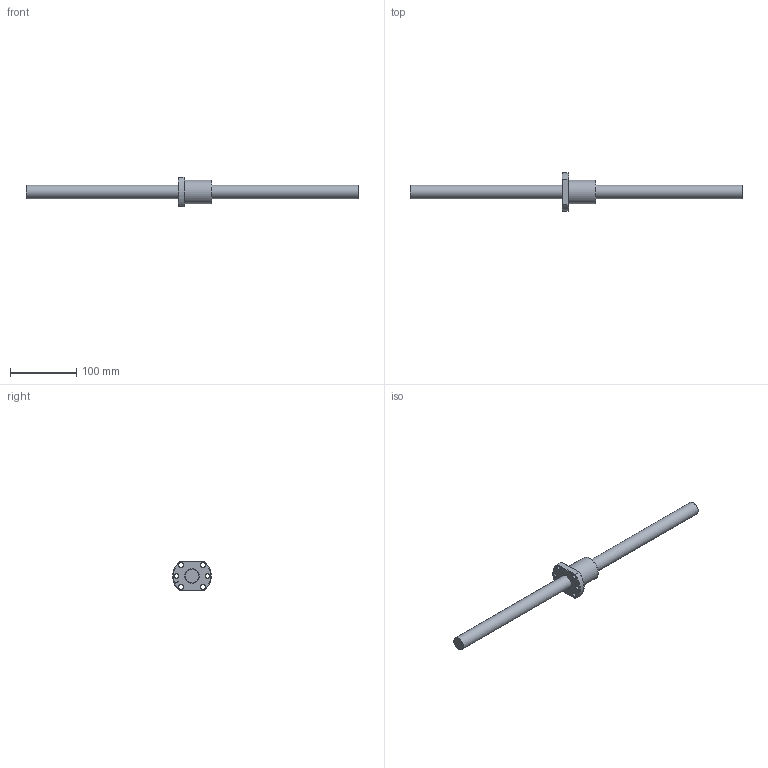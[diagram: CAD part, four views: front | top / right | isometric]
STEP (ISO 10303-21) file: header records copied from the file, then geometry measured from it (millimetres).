
FILE_DESCRIPTION (( 'STEP AP203' ), '1' );
FILE_NAME ('SFNU02005D-4.step', '2024-05-14T06:34:16', ( '' ), ( '' ), 'SwSTEP 2.0', 'SolidWorks 2022', '' );
FILE_SCHEMA (( 'CONFIG_CONTROL_DESIGN' ));
Length unit declared in the file: millimetre
Products named in the file (1): SFNU02005D-4
Bounding box: 500 x 58 x 44 mm (x, y, z)
Volume: 199512.1 mm3; surface area: 46614.9 mm2
Topology: 2 solids, 2 shells, 54 faces, 139 edges, 90 vertices
Faces by surface type: cylinder 19, cone 13, plane 12, bspline 5, torus 5
Full cylindrical faces by diameter (mm): 4 x1, 5 x6, 6.6 x6, 20 x1, 22.1 x1, 36 x1
Entity records: 3137 total; most frequent: CARTESIAN_POINT 2101, DIRECTION 186, ORIENTED_EDGE 166, EDGE_LOOP 90, AXIS2_PLACEMENT_3D 85, EDGE_CURVE 83, VERTEX_POINT 67, FACE_OUTER_BOUND 60
